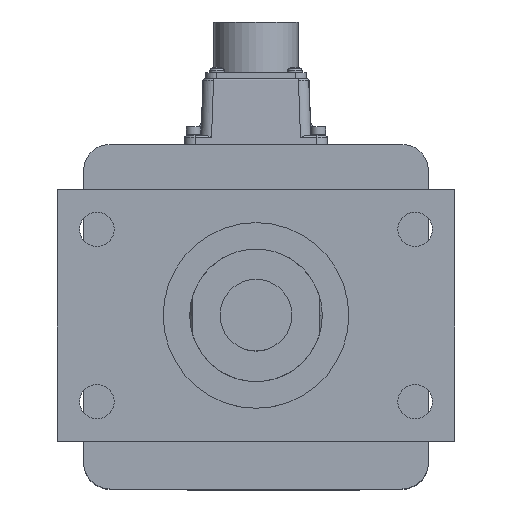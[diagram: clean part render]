
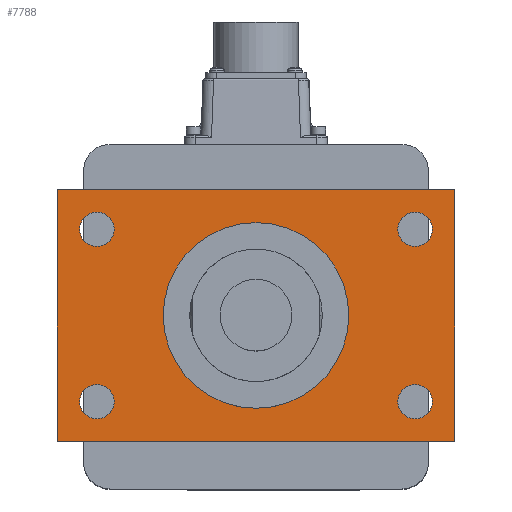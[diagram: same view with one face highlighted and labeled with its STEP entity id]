
A CAD part, top view. The second image highlights one B-rep face of the part: STEP entity #7788.
In plain terms, the highlighted planar face has unit normal (0, 0, 1).
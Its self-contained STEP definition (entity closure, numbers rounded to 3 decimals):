
#336 = ORIENTED_EDGE ( 'NONE', *, *, #8213, .T. ) ;
#525 = CARTESIAN_POINT ( 'NONE',  ( 60., -32.5, 270. ) ) ;
#876 = FACE_OUTER_BOUND ( 'NONE', #5658, .T. ) ;
#1030 = DIRECTION ( 'NONE',  ( 0., 0., 1. ) ) ;
#1043 = CARTESIAN_POINT ( 'NONE',  ( 66.5, -32.5, 270. ) ) ;
#1269 = DIRECTION ( 'NONE',  ( 0., -1., 0. ) ) ;
#1438 = ORIENTED_EDGE ( 'NONE', *, *, #17366, .F. ) ;
#1537 = ORIENTED_EDGE ( 'NONE', *, *, #10483, .T. ) ;
#1551 = DIRECTION ( 'NONE',  ( 0., 0., 1. ) ) ;
#1632 = VERTEX_POINT ( 'NONE', #22165 ) ;
#1675 = ORIENTED_EDGE ( 'NONE', *, *, #5291, .T. ) ;
#1825 = CIRCLE ( 'NONE', #19551, 6.5 ) ;
#1893 = VERTEX_POINT ( 'NONE', #23398 ) ;
#2092 = EDGE_CURVE ( 'NONE', #1632, #22250, #7135, .T. ) ;
#2144 = LINE ( 'NONE', #5011, #20885 ) ;
#2159 = VERTEX_POINT ( 'NONE', #1043 ) ;
#2404 = VECTOR ( 'NONE', #8839, 1000. ) ;
#2621 = AXIS2_PLACEMENT_3D ( 'NONE', #25159, #27309, #3822 ) ;
#2666 = VECTOR ( 'NONE', #5863, 1000. ) ;
#3175 = DIRECTION ( 'NONE',  ( 1., 0., 0. ) ) ;
#3328 = EDGE_CURVE ( 'NONE', #25229, #24074, #7054, .T. ) ;
#3342 = DIRECTION ( 'NONE',  ( 1., 0., 0. ) ) ;
#3398 = CARTESIAN_POINT ( 'NONE',  ( -60., -32.5, 270. ) ) ;
#3463 = CIRCLE ( 'NONE', #8131, 6.5 ) ;
#3480 = DIRECTION ( 'NONE',  ( 1., 0., 0. ) ) ;
#3822 = DIRECTION ( 'NONE',  ( -1., 0., 0. ) ) ;
#4098 = PLANE ( 'NONE',  #2621 ) ;
#4116 = DIRECTION ( 'NONE',  ( -1., 0., 0. ) ) ;
#4533 = AXIS2_PLACEMENT_3D ( 'NONE', #525, #13276, #11428 ) ;
#4561 = CIRCLE ( 'NONE', #5070, 35. ) ;
#4575 = AXIS2_PLACEMENT_3D ( 'NONE', #19606, #23699, #15227 ) ;
#4960 = EDGE_CURVE ( 'NONE', #26895, #25990, #16359, .T. ) ;
#5011 = CARTESIAN_POINT ( 'NONE',  ( -75., -47.5, 270. ) ) ;
#5070 = AXIS2_PLACEMENT_3D ( 'NONE', #14251, #1551, #14341 ) ;
#5291 = EDGE_CURVE ( 'NONE', #27062, #16737, #22029, .T. ) ;
#5456 = EDGE_LOOP ( 'NONE', ( #1438, #26666 ) ) ;
#5658 = EDGE_LOOP ( 'NONE', ( #1675, #336, #15875, #1537 ) ) ;
#5863 = DIRECTION ( 'NONE',  ( -1., 0., 0. ) ) ;
#6098 = VERTEX_POINT ( 'NONE', #11125 ) ;
#6169 = CARTESIAN_POINT ( 'NONE',  ( 60., -32.5, 270. ) ) ;
#6541 = FACE_BOUND ( 'NONE', #5456, .T. ) ;
#6793 = EDGE_LOOP ( 'NONE', ( #16286, #26328 ) ) ;
#6864 = CIRCLE ( 'NONE', #4533, 6.5 ) ;
#7054 = CIRCLE ( 'NONE', #9865, 6.5 ) ;
#7135 = LINE ( 'NONE', #26559, #17795 ) ;
#7213 = CARTESIAN_POINT ( 'NONE',  ( 53.5, 32.5, 270. ) ) ;
#7408 = AXIS2_PLACEMENT_3D ( 'NONE', #6169, #12413, #4116 ) ;
#7735 = VERTEX_POINT ( 'NONE', #26665 ) ;
#7788 = ADVANCED_FACE ( 'NONE', ( #876, #18546, #6541, #17539, #9210, #9869 ), #4098, .F. ) ;
#7855 = EDGE_LOOP ( 'NONE', ( #27321, #16540 ) ) ;
#8122 = CARTESIAN_POINT ( 'NONE',  ( -75., 47.5, 270. ) ) ;
#8131 = AXIS2_PLACEMENT_3D ( 'NONE', #8214, #17501, #13688 ) ;
#8213 = EDGE_CURVE ( 'NONE', #16737, #1632, #2144, .T. ) ;
#8214 = CARTESIAN_POINT ( 'NONE',  ( 60., 32.5, 270. ) ) ;
#8526 = DIRECTION ( 'NONE',  ( 1., 0., 0. ) ) ;
#8839 = DIRECTION ( 'NONE',  ( 0., 1., 0. ) ) ;
#9210 = FACE_BOUND ( 'NONE', #6793, .T. ) ;
#9233 = DIRECTION ( 'NONE',  ( 0., 0., 1. ) ) ;
#9410 = CARTESIAN_POINT ( 'NONE',  ( -53.5, 32.5, 270. ) ) ;
#9448 = LINE ( 'NONE', #13395, #2404 ) ;
#9804 = EDGE_CURVE ( 'NONE', #25990, #26895, #3463, .T. ) ;
#9865 = AXIS2_PLACEMENT_3D ( 'NONE', #3398, #18299, #3480 ) ;
#9869 = FACE_BOUND ( 'NONE', #7855, .T. ) ;
#10483 = EDGE_CURVE ( 'NONE', #22250, #27062, #9448, .T. ) ;
#11019 = EDGE_LOOP ( 'NONE', ( #11333, #11253 ) ) ;
#11125 = CARTESIAN_POINT ( 'NONE',  ( -35., 0., 270. ) ) ;
#11253 = ORIENTED_EDGE ( 'NONE', *, *, #3328, .F. ) ;
#11282 = EDGE_CURVE ( 'NONE', #7735, #2159, #12854, .T. ) ;
#11333 = ORIENTED_EDGE ( 'NONE', *, *, #11669, .F. ) ;
#11428 = DIRECTION ( 'NONE',  ( -1., 0., 0. ) ) ;
#11669 = EDGE_CURVE ( 'NONE', #24074, #25229, #1825, .T. ) ;
#12413 = DIRECTION ( 'NONE',  ( 0., 0., 1. ) ) ;
#12854 = CIRCLE ( 'NONE', #7408, 6.5 ) ;
#13101 = CARTESIAN_POINT ( 'NONE',  ( 35., 0., 270. ) ) ;
#13143 = CARTESIAN_POINT ( 'NONE',  ( -60., 32.5, 270. ) ) ;
#13229 = DIRECTION ( 'NONE',  ( 1., 0., 0. ) ) ;
#13276 = DIRECTION ( 'NONE',  ( 0., 0., 1. ) ) ;
#13395 = CARTESIAN_POINT ( 'NONE',  ( 75., -47.5, 270. ) ) ;
#13688 = DIRECTION ( 'NONE',  ( -1., 0., 0. ) ) ;
#13926 = ORIENTED_EDGE ( 'NONE', *, *, #11282, .F. ) ;
#14251 = CARTESIAN_POINT ( 'NONE',  ( 0., 0., 270. ) ) ;
#14341 = DIRECTION ( 'NONE',  ( -1., 0., 0. ) ) ;
#14712 = VERTEX_POINT ( 'NONE', #9410 ) ;
#15227 = DIRECTION ( 'NONE',  ( -1., 0., 0. ) ) ;
#15482 = DIRECTION ( 'NONE',  ( 0., 0., 1. ) ) ;
#15875 = ORIENTED_EDGE ( 'NONE', *, *, #2092, .T. ) ;
#16114 = CARTESIAN_POINT ( 'NONE',  ( -60., -32.5, 270. ) ) ;
#16286 = ORIENTED_EDGE ( 'NONE', *, *, #9804, .F. ) ;
#16359 = CIRCLE ( 'NONE', #20987, 6.5 ) ;
#16380 = CARTESIAN_POINT ( 'NONE',  ( 75., 47.5, 270. ) ) ;
#16433 = EDGE_CURVE ( 'NONE', #14712, #1893, #25582, .T. ) ;
#16540 = ORIENTED_EDGE ( 'NONE', *, *, #25863, .F. ) ;
#16737 = VERTEX_POINT ( 'NONE', #8122 ) ;
#17366 = EDGE_CURVE ( 'NONE', #1893, #14712, #22266, .T. ) ;
#17501 = DIRECTION ( 'NONE',  ( 0., 0., 1. ) ) ;
#17539 = FACE_BOUND ( 'NONE', #20102, .T. ) ;
#17788 = CARTESIAN_POINT ( 'NONE',  ( -66.5, -32.5, 270. ) ) ;
#17795 = VECTOR ( 'NONE', #3175, 1000. ) ;
#17804 = CIRCLE ( 'NONE', #4575, 35. ) ;
#18299 = DIRECTION ( 'NONE',  ( 0., 0., 1. ) ) ;
#18546 = FACE_BOUND ( 'NONE', #11019, .T. ) ;
#18672 = VERTEX_POINT ( 'NONE', #13101 ) ;
#18914 = CARTESIAN_POINT ( 'NONE',  ( 66.5, 32.5, 270. ) ) ;
#18955 = CARTESIAN_POINT ( 'NONE',  ( 75., -47.5, 270. ) ) ;
#19551 = AXIS2_PLACEMENT_3D ( 'NONE', #16114, #1030, #3342 ) ;
#19606 = CARTESIAN_POINT ( 'NONE',  ( 0., 0., 270. ) ) ;
#20102 = EDGE_LOOP ( 'NONE', ( #13926, #20712 ) ) ;
#20712 = ORIENTED_EDGE ( 'NONE', *, *, #24475, .F. ) ;
#20885 = VECTOR ( 'NONE', #1269, 1000. ) ;
#20987 = AXIS2_PLACEMENT_3D ( 'NONE', #22008, #9233, #26272 ) ;
#21399 = DIRECTION ( 'NONE',  ( 0., 0., 1. ) ) ;
#22008 = CARTESIAN_POINT ( 'NONE',  ( 60., 32.5, 270. ) ) ;
#22029 = LINE ( 'NONE', #16380, #2666 ) ;
#22165 = CARTESIAN_POINT ( 'NONE',  ( -75., -47.5, 270. ) ) ;
#22250 = VERTEX_POINT ( 'NONE', #18955 ) ;
#22266 = CIRCLE ( 'NONE', #26823, 6.5 ) ;
#22343 = AXIS2_PLACEMENT_3D ( 'NONE', #13143, #15482, #13229 ) ;
#23331 = CARTESIAN_POINT ( 'NONE',  ( -60., 32.5, 270. ) ) ;
#23398 = CARTESIAN_POINT ( 'NONE',  ( -66.5, 32.5, 270. ) ) ;
#23699 = DIRECTION ( 'NONE',  ( 0., 0., 1. ) ) ;
#24074 = VERTEX_POINT ( 'NONE', #17788 ) ;
#24099 = EDGE_CURVE ( 'NONE', #6098, #18672, #4561, .T. ) ;
#24475 = EDGE_CURVE ( 'NONE', #2159, #7735, #6864, .T. ) ;
#25159 = CARTESIAN_POINT ( 'NONE',  ( 0., 0., 270. ) ) ;
#25229 = VERTEX_POINT ( 'NONE', #26941 ) ;
#25582 = CIRCLE ( 'NONE', #22343, 6.5 ) ;
#25863 = EDGE_CURVE ( 'NONE', #18672, #6098, #17804, .T. ) ;
#25990 = VERTEX_POINT ( 'NONE', #7213 ) ;
#26272 = DIRECTION ( 'NONE',  ( -1., 0., 0. ) ) ;
#26328 = ORIENTED_EDGE ( 'NONE', *, *, #4960, .F. ) ;
#26559 = CARTESIAN_POINT ( 'NONE',  ( 75., -47.5, 270. ) ) ;
#26665 = CARTESIAN_POINT ( 'NONE',  ( 53.5, -32.5, 270. ) ) ;
#26666 = ORIENTED_EDGE ( 'NONE', *, *, #16433, .F. ) ;
#26814 = CARTESIAN_POINT ( 'NONE',  ( 75., 47.5, 270. ) ) ;
#26823 = AXIS2_PLACEMENT_3D ( 'NONE', #23331, #21399, #8526 ) ;
#26895 = VERTEX_POINT ( 'NONE', #18914 ) ;
#26941 = CARTESIAN_POINT ( 'NONE',  ( -53.5, -32.5, 270. ) ) ;
#27062 = VERTEX_POINT ( 'NONE', #26814 ) ;
#27309 = DIRECTION ( 'NONE',  ( 0., 0., -1. ) ) ;
#27321 = ORIENTED_EDGE ( 'NONE', *, *, #24099, .F. ) ;
